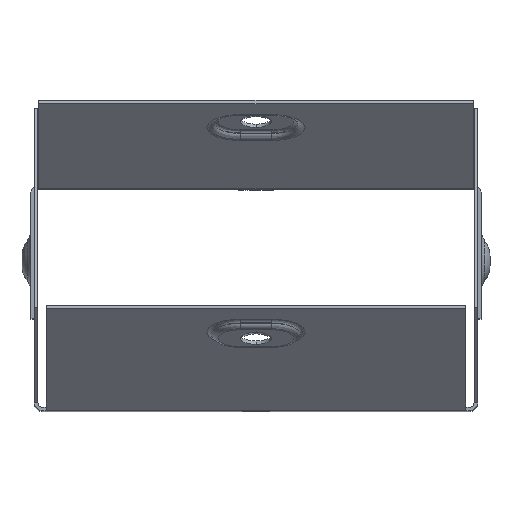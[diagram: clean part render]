
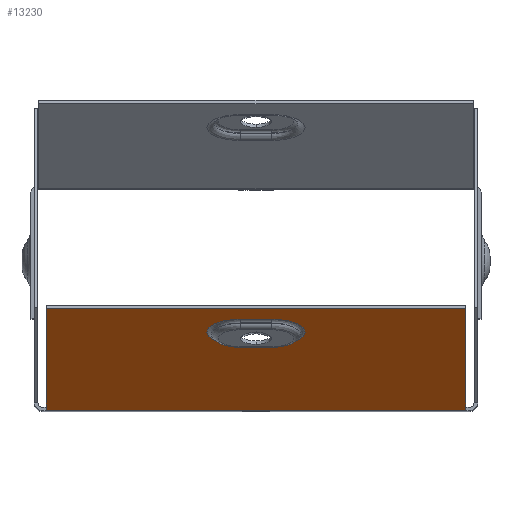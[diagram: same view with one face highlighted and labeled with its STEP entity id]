
A CAD part, top view. The second image highlights one B-rep face of the part: STEP entity #13230.
In plain terms, the highlighted planar face has unit normal (0, -0.924, 0.383).
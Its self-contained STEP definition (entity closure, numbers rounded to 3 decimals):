
#65 = LINE ( 'NONE', #8220, #211 ) ;
#211 = VECTOR ( 'NONE', #2022, 1000. ) ;
#252 = VERTEX_POINT ( 'NONE', #10099 ) ;
#680 = AXIS2_PLACEMENT_3D ( 'NONE', #5555, #3337, #4400 ) ;
#746 = DIRECTION ( 'NONE',  ( 1., 0., 0. ) ) ;
#779 = LINE ( 'NONE', #8994, #9054 ) ;
#824 = DIRECTION ( 'NONE',  ( -1., 0., 0. ) ) ;
#862 = DIRECTION ( 'NONE',  ( 0., 0.924, -0.383 ) ) ;
#873 = CARTESIAN_POINT ( 'NONE',  ( 47.299, -50.663, 58.456 ) ) ;
#959 = DIRECTION ( 'NONE',  ( 0., 0.383, 0.924 ) ) ;
#1218 = ORIENTED_EDGE ( 'NONE', *, *, #8654, .T. ) ;
#1428 = EDGE_CURVE ( 'NONE', #6633, #12182, #6568, .T. ) ;
#1518 = EDGE_LOOP ( 'NONE', ( #9973, #7600, #4679, #12096 ) ) ;
#1521 = FACE_BOUND ( 'NONE', #5945, .T. ) ;
#1806 = CARTESIAN_POINT ( 'NONE',  ( 47.299, -27.805, 113.641 ) ) ;
#2022 = DIRECTION ( 'NONE',  ( -1., 0., 0. ) ) ;
#2086 = CIRCLE ( 'NONE', #9766, 7.598 ) ;
#3166 = FACE_OUTER_BOUND ( 'NONE', #1518, .T. ) ;
#3241 = CARTESIAN_POINT ( 'NONE',  ( -3.5, -30.254, 107.726 ) ) ;
#3274 = VERTEX_POINT ( 'NONE', #1806 ) ;
#3328 = DIRECTION ( 'NONE',  ( 0., 0.383, 0.924 ) ) ;
#3337 = DIRECTION ( 'NONE',  ( 0., 0.924, -0.383 ) ) ;
#3423 = PLANE ( 'NONE',  #680 ) ;
#3434 = ORIENTED_EDGE ( 'NONE', *, *, #12783, .T. ) ;
#3491 = LINE ( 'NONE', #11341, #5767 ) ;
#3792 = VECTOR ( 'NONE', #12042, 1000. ) ;
#4043 = EDGE_CURVE ( 'NONE', #6511, #5188, #779, .T. ) ;
#4400 = DIRECTION ( 'NONE',  ( 0., 0.383, 0.924 ) ) ;
#4622 = EDGE_CURVE ( 'NONE', #7264, #12182, #5812, .T. ) ;
#4679 = ORIENTED_EDGE ( 'NONE', *, *, #9095, .T. ) ;
#4891 = CARTESIAN_POINT ( 'NONE',  ( -3.5, -33.162, 100.707 ) ) ;
#4968 = VECTOR ( 'NONE', #959, 1000. ) ;
#5188 = VERTEX_POINT ( 'NONE', #6850 ) ;
#5464 = AXIS2_PLACEMENT_3D ( 'NONE', #4891, #5800, #13127 ) ;
#5555 = CARTESIAN_POINT ( 'NONE',  ( 48.2, -50.8, 58.125 ) ) ;
#5767 = VECTOR ( 'NONE', #824, 1000. ) ;
#5777 = ORIENTED_EDGE ( 'NONE', *, *, #4043, .T. ) ;
#5800 = DIRECTION ( 'NONE',  ( 0., 0.924, -0.383 ) ) ;
#5812 = LINE ( 'NONE', #13272, #8698 ) ;
#5945 = EDGE_LOOP ( 'NONE', ( #5777, #1218, #3434, #7682 ) ) ;
#6286 = LINE ( 'NONE', #13335, #4968 ) ;
#6511 = VERTEX_POINT ( 'NONE', #3241 ) ;
#6568 = LINE ( 'NONE', #9062, #3792 ) ;
#6633 = VERTEX_POINT ( 'NONE', #10731 ) ;
#6850 = CARTESIAN_POINT ( 'NONE',  ( 3.5, -30.254, 107.726 ) ) ;
#7264 = VERTEX_POINT ( 'NONE', #873 ) ;
#7308 = CARTESIAN_POINT ( 'NONE',  ( -47.299, -50.663, 58.456 ) ) ;
#7333 = EDGE_CURVE ( 'NONE', #252, #6511, #9914, .T. ) ;
#7600 = ORIENTED_EDGE ( 'NONE', *, *, #4622, .F. ) ;
#7682 = ORIENTED_EDGE ( 'NONE', *, *, #7333, .T. ) ;
#8018 = CARTESIAN_POINT ( 'NONE',  ( 3.5, -33.162, 100.707 ) ) ;
#8220 = CARTESIAN_POINT ( 'NONE',  ( 48.2, -27.805, 113.641 ) ) ;
#8654 = EDGE_CURVE ( 'NONE', #5188, #9178, #2086, .T. ) ;
#8698 = VECTOR ( 'NONE', #11196, 1000. ) ;
#8994 = CARTESIAN_POINT ( 'NONE',  ( 3.5, -30.254, 107.726 ) ) ;
#9054 = VECTOR ( 'NONE', #746, 1000. ) ;
#9062 = CARTESIAN_POINT ( 'NONE',  ( -47.299, -50.8, 58.125 ) ) ;
#9095 = EDGE_CURVE ( 'NONE', #7264, #3274, #6286, .T. ) ;
#9178 = VERTEX_POINT ( 'NONE', #13260 ) ;
#9763 = EDGE_CURVE ( 'NONE', #3274, #6633, #65, .T. ) ;
#9766 = AXIS2_PLACEMENT_3D ( 'NONE', #8018, #862, #3328 ) ;
#9914 = CIRCLE ( 'NONE', #5464, 7.598 ) ;
#9973 = ORIENTED_EDGE ( 'NONE', *, *, #1428, .T. ) ;
#10099 = CARTESIAN_POINT ( 'NONE',  ( -3.5, -36.07, 93.687 ) ) ;
#10731 = CARTESIAN_POINT ( 'NONE',  ( -47.299, -27.805, 113.641 ) ) ;
#11196 = DIRECTION ( 'NONE',  ( -1., 0., 0. ) ) ;
#11341 = CARTESIAN_POINT ( 'NONE',  ( 3.5, -36.07, 93.687 ) ) ;
#12042 = DIRECTION ( 'NONE',  ( 0., -0.383, -0.924 ) ) ;
#12096 = ORIENTED_EDGE ( 'NONE', *, *, #9763, .T. ) ;
#12182 = VERTEX_POINT ( 'NONE', #7308 ) ;
#12783 = EDGE_CURVE ( 'NONE', #9178, #252, #3491, .T. ) ;
#13127 = DIRECTION ( 'NONE',  ( 0., 0.383, 0.924 ) ) ;
#13230 = ADVANCED_FACE ( 'NONE', ( #1521, #3166 ), #3423, .F. ) ;
#13260 = CARTESIAN_POINT ( 'NONE',  ( 3.5, -36.07, 93.687 ) ) ;
#13272 = CARTESIAN_POINT ( 'NONE',  ( 48.2, -50.663, 58.456 ) ) ;
#13335 = CARTESIAN_POINT ( 'NONE',  ( 47.299, -50.864, 57.971 ) ) ;
